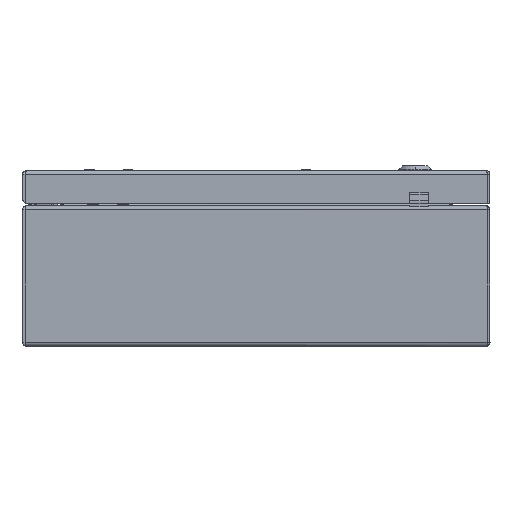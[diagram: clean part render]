
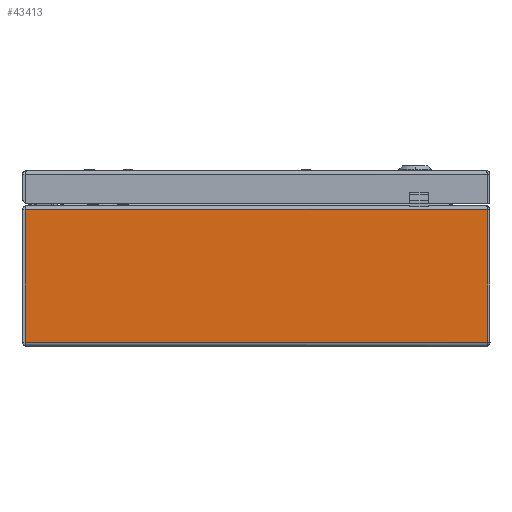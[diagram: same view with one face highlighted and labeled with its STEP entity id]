
A CAD part, front view. The second image highlights one B-rep face of the part: STEP entity #43413.
In plain terms, the highlighted planar face has unit normal (0, -1, 0).
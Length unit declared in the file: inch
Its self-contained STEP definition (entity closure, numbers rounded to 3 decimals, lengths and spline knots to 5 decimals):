
#7 = FACE_OUTER_BOUND ( 'NONE', #4184, .T. ) ;
#760 = PLANE ( 'NONE',  #55388 ) ;
#764 = CARTESIAN_POINT ( 'NONE',  ( 86.6415, -7.8765, 4.6022 ) ) ;
#770 = DIRECTION ( 'NONE',  ( 0., 1., 0. ) ) ;
#771 = DIRECTION ( 'NONE',  ( 0., 0., -1. ) ) ;
#4184 = EDGE_LOOP ( 'NONE', ( #18403, #18404, #18405, #18406 ) ) ;
#10117 = CARTESIAN_POINT ( 'NONE',  ( 7.79403, -7.8765, 0.13 ) ) ;
#13753 = VERTEX_POINT ( 'NONE', #24245 ) ;
#13769 = VERTEX_POINT ( 'NONE', #24261 ) ;
#13771 = VERTEX_POINT ( 'NONE', #24263 ) ;
#15852 = EDGE_CURVE ( 'NONE', #13753, #13769, #33014, .T. ) ;
#15859 = EDGE_CURVE ( 'NONE', #13771, #13769, #33023, .T. ) ;
#15983 = EDGE_CURVE ( 'NONE', #13753, #57356, #33206, .T. ) ;
#16136 = EDGE_CURVE ( 'NONE', #57356, #13771, #34024, .T. ) ;
#18403 = ORIENTED_EDGE ( 'NONE', *, *, #15859, .F. ) ;
#18404 = ORIENTED_EDGE ( 'NONE', *, *, #16136, .F. ) ;
#18405 = ORIENTED_EDGE ( 'NONE', *, *, #15983, .F. ) ;
#18406 = ORIENTED_EDGE ( 'NONE', *, *, #15852, .T. ) ;
#24245 = CARTESIAN_POINT ( 'NONE',  ( 7.79403, -7.8765, 4.6022 ) ) ;
#24261 = CARTESIAN_POINT ( 'NONE',  ( -7.79403, -7.8765, 4.6022 ) ) ;
#24263 = CARTESIAN_POINT ( 'NONE',  ( -7.79403, -7.8765, 0.13 ) ) ;
#32449 = CARTESIAN_POINT ( 'NONE',  ( 86.6415, -7.8765, 4.6022 ) ) ;
#32473 = DIRECTION ( 'NONE',  ( -1., 0., 0. ) ) ;
#32498 = CARTESIAN_POINT ( 'NONE',  ( -7.79403, -7.8765, 4.6022 ) ) ;
#32505 = DIRECTION ( 'NONE',  ( 0., 0., 1. ) ) ;
#33014 = LINE ( 'NONE', #32449, #33016 ) ;
#33016 = VECTOR ( 'NONE', #32473, 39.37008 ) ;
#33023 = LINE ( 'NONE', #32498, #33026 ) ;
#33026 = VECTOR ( 'NONE', #32505, 39.37008 ) ;
#33206 = LINE ( 'NONE', #33565, #33210 ) ;
#33210 = VECTOR ( 'NONE', #33569, 39.37008 ) ;
#33565 = CARTESIAN_POINT ( 'NONE',  ( 7.79403, -7.8765, 4.6022 ) ) ;
#33569 = DIRECTION ( 'NONE',  ( 0., 0., -1. ) ) ;
#34024 = LINE ( 'NONE', #34292, #34026 ) ;
#34026 = VECTOR ( 'NONE', #34293, 39.37008 ) ;
#34292 = CARTESIAN_POINT ( 'NONE',  ( 86.6415, -7.8765, 0.13 ) ) ;
#34293 = DIRECTION ( 'NONE',  ( -1., 0., 0. ) ) ;
#43413 = ADVANCED_FACE ( 'NONE', ( #7 ), #760, .F. ) ;
#55388 = AXIS2_PLACEMENT_3D ( 'NONE', #764, #770, #771 ) ;
#57356 = VERTEX_POINT ( 'NONE', #10117 ) ;
